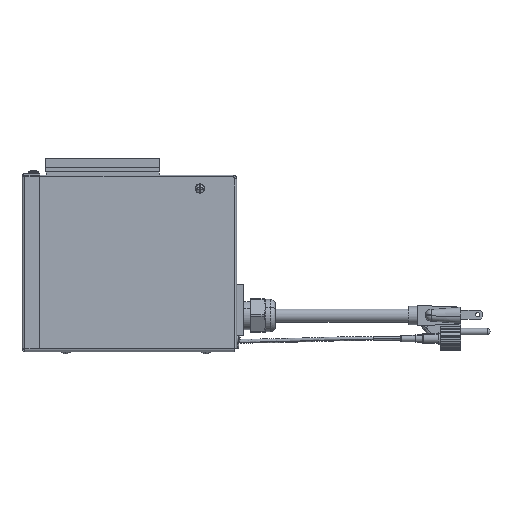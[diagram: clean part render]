
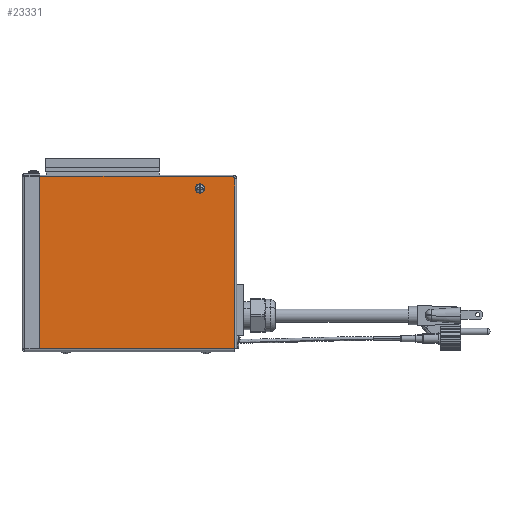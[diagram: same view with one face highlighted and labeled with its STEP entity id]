
A CAD part, left-side view. The second image highlights one B-rep face of the part: STEP entity #23331.
In plain terms, the highlighted planar face has unit normal (-1, 0, 0).
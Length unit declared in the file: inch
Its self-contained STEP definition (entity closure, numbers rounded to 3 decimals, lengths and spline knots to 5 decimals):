
#1130 = VERTEX_POINT ( 'NONE', #24267 ) ;
#1957 = ORIENTED_EDGE ( 'NONE', *, *, #15543, .F. ) ;
#2665 = LINE ( 'NONE', #11680, #18459 ) ;
#2791 = CARTESIAN_POINT ( 'NONE',  ( -2., -3., 0.03 ) ) ;
#2956 = VERTEX_POINT ( 'NONE', #9185 ) ;
#3005 = VERTEX_POINT ( 'NONE', #18717 ) ;
#3832 = DIRECTION ( 'NONE',  ( 1., 0., 0. ) ) ;
#4116 = CARTESIAN_POINT ( 'NONE',  ( -2., -3., 0. ) ) ;
#5262 = VERTEX_POINT ( 'NONE', #6196 ) ;
#5396 = EDGE_CURVE ( 'NONE', #5262, #2956, #7455, .T. ) ;
#5564 = ORIENTED_EDGE ( 'NONE', *, *, #25082, .T. ) ;
#6147 = LINE ( 'NONE', #4116, #21283 ) ;
#6196 = CARTESIAN_POINT ( 'NONE',  ( -2., -2.002, 4.68175 ) ) ;
#6947 = EDGE_CURVE ( 'NONE', #13836, #3005, #15271, .T. ) ;
#7455 = CIRCLE ( 'NONE', #17465, 0.07475 ) ;
#7508 = DIRECTION ( 'NONE',  ( 0., 1., 0. ) ) ;
#7583 = CARTESIAN_POINT ( 'NONE',  ( -2., 0., 0. ) ) ;
#8334 = CARTESIAN_POINT ( 'NONE',  ( -2., -2.9, 4.852 ) ) ;
#9185 = CARTESIAN_POINT ( 'NONE',  ( -2., -2.002, 4.53225 ) ) ;
#9301 = DIRECTION ( 'NONE',  ( 1., 0., 0. ) ) ;
#9565 = EDGE_CURVE ( 'NONE', #22693, #1130, #2665, .T. ) ;
#9585 = DIRECTION ( 'NONE',  ( 0., 0., -1. ) ) ;
#10066 = DIRECTION ( 'NONE',  ( 0., 0., 1. ) ) ;
#10321 = DIRECTION ( 'NONE',  ( 0., 0., -1. ) ) ;
#10980 = ORIENTED_EDGE ( 'NONE', *, *, #5396, .T. ) ;
#11410 = FACE_OUTER_BOUND ( 'NONE', #21134, .T. ) ;
#11680 = CARTESIAN_POINT ( 'NONE',  ( -2., 3., 0. ) ) ;
#11927 = CARTESIAN_POINT ( 'NONE',  ( -2., -3., 4.852 ) ) ;
#12047 = FACE_BOUND ( 'NONE', #20494, .T. ) ;
#12064 = AXIS2_PLACEMENT_3D ( 'NONE', #8334, #22163, #10321 ) ;
#12243 = EDGE_CURVE ( 'NONE', #16125, #13836, #6147, .T. ) ;
#12415 = DIRECTION ( 'NONE',  ( 0., 1., 0. ) ) ;
#13836 = VERTEX_POINT ( 'NONE', #11927 ) ;
#15271 = CIRCLE ( 'NONE', #12064, 0.1 ) ;
#15543 = EDGE_CURVE ( 'NONE', #16125, #1130, #21191, .T. ) ;
#15636 = CARTESIAN_POINT ( 'NONE',  ( -2., -2.002, 4.607 ) ) ;
#15968 = VECTOR ( 'NONE', #12415, 39.37008 ) ;
#16125 = VERTEX_POINT ( 'NONE', #2791 ) ;
#16242 = VECTOR ( 'NONE', #7508, 39.37008 ) ;
#16314 = CARTESIAN_POINT ( 'NONE',  ( -2., 3., 0.03 ) ) ;
#16950 = AXIS2_PLACEMENT_3D ( 'NONE', #7583, #21393, #9585 ) ;
#17369 = CARTESIAN_POINT ( 'NONE',  ( -2., 0., 4.952 ) ) ;
#17465 = AXIS2_PLACEMENT_3D ( 'NONE', #23142, #9301, #18578 ) ;
#17654 = DIRECTION ( 'NONE',  ( 0., 0., -1. ) ) ;
#17844 = CARTESIAN_POINT ( 'NONE',  ( -2., 3., 4.952 ) ) ;
#18459 = VECTOR ( 'NONE', #23446, 39.37008 ) ;
#18578 = DIRECTION ( 'NONE',  ( 0., 0., -1. ) ) ;
#18669 = AXIS2_PLACEMENT_3D ( 'NONE', #15636, #3832, #17654 ) ;
#18677 = ORIENTED_EDGE ( 'NONE', *, *, #24592, .T. ) ;
#18717 = CARTESIAN_POINT ( 'NONE',  ( -2., -2.9, 4.952 ) ) ;
#20494 = EDGE_LOOP ( 'NONE', ( #18677, #10980 ) ) ;
#20619 = ORIENTED_EDGE ( 'NONE', *, *, #9565, .T. ) ;
#21134 = EDGE_LOOP ( 'NONE', ( #21570, #24979, #5564, #20619, #1957 ) ) ;
#21191 = LINE ( 'NONE', #16314, #15968 ) ;
#21283 = VECTOR ( 'NONE', #10066, 39.37008 ) ;
#21393 = DIRECTION ( 'NONE',  ( 1., 0., 0. ) ) ;
#21468 = LINE ( 'NONE', #17369, #16242 ) ;
#21570 = ORIENTED_EDGE ( 'NONE', *, *, #12243, .T. ) ;
#22163 = DIRECTION ( 'NONE',  ( -1., 0., 0. ) ) ;
#22693 = VERTEX_POINT ( 'NONE', #17844 ) ;
#23142 = CARTESIAN_POINT ( 'NONE',  ( -2., -2.002, 4.607 ) ) ;
#23331 = ADVANCED_FACE ( 'NONE', ( #12047, #11410 ), #23332, .F. ) ;
#23332 = PLANE ( 'NONE',  #16950 ) ;
#23446 = DIRECTION ( 'NONE',  ( 0., 0., -1. ) ) ;
#24267 = CARTESIAN_POINT ( 'NONE',  ( -2., 3., 0.03 ) ) ;
#24592 = EDGE_CURVE ( 'NONE', #2956, #5262, #25568, .T. ) ;
#24979 = ORIENTED_EDGE ( 'NONE', *, *, #6947, .T. ) ;
#25082 = EDGE_CURVE ( 'NONE', #3005, #22693, #21468, .T. ) ;
#25568 = CIRCLE ( 'NONE', #18669, 0.07475 ) ;
